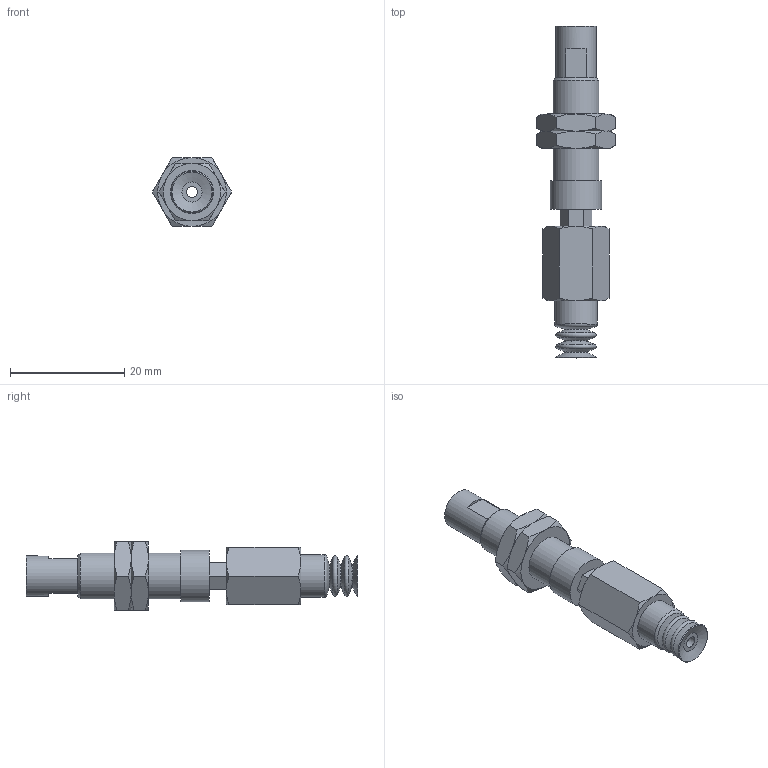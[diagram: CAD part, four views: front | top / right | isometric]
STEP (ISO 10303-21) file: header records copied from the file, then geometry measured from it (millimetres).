
FILE_DESCRIPTION(('STEP AP203'),'1');
FILE_NAME('.stp','2025-08-27T01:23:43',(' '),(' '),'Spatial InterOp 3D',' ',' ');
FILE_SCHEMA(('CONFIG_CONTROL_DESIGN'));
Length unit declared in the file: millimetre
Products named in the file (6): BNABPCTH-7-3-※; ADAPTER; NAPATH-10A-3--M; Nut napc_h-7-3; NAPCTH-7-3-FBODY; BPCG-7-※
Assembly tree (6 placements, depth 2):
  BNABPCTH-7-3-※
    ADAPTER
    NAPATH-10A-3--M
    Nut napc_h-7-3  x2
    NAPCTH-7-3-FBODY
    BPCG-7-※
Bounding box: 13.86 x 58 x 12 mm (x, y, z)
Volume: 3332.1 mm3; surface area: 3977.5 mm2
Topology: 6 solids, 6 shells, 130 faces, 274 edges, 163 vertices
Faces by surface type: plane 53, cone 50, cylinder 14, torus 13
Full cylindrical faces by diameter (mm): 2 x3, 4 x2, 4.134 x1, 6 x2, 7 x1, 7.188 x2, 7.5 x1, 8 x1, 9 x1
Entity records: 3120 total; most frequent: CARTESIAN_POINT 718, DIRECTION 442, ORIENTED_EDGE 368, AXIS2_PLACEMENT_3D 192, EDGE_CURVE 184, EDGE_LOOP 162, FACE_OUTER_BOUND 133, VERTEX_POINT 132
